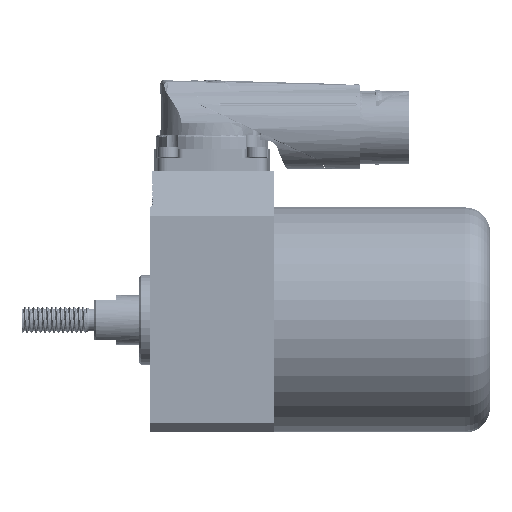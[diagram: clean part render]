
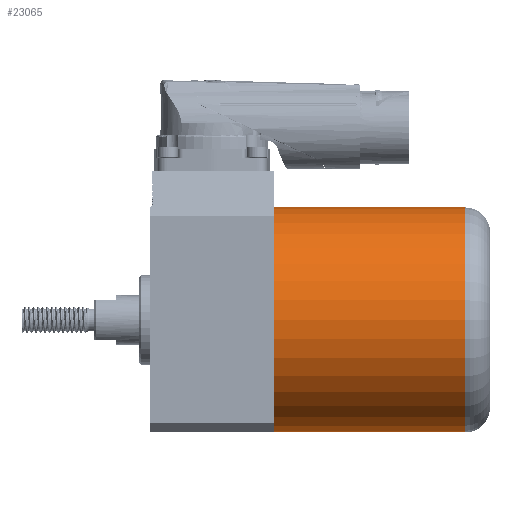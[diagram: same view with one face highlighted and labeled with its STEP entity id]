
A CAD part, front view. The second image highlights one B-rep face of the part: STEP entity #23065.
In plain terms, the highlighted cylindrical face has radius 25 mm (diameter 50 mm), a full revolution.
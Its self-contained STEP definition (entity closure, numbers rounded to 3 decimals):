
#2491=FACE_OUTER_BOUND('',#3953,.T.);
#3953=EDGE_LOOP('',(#20336,#20337,#20338,#20339,#20340,#20341));
#5734=CIRCLE('',#25067,25.);
#5736=CIRCLE('',#25070,25.);
#5737=CIRCLE('',#25071,25.);
#5738=CIRCLE('',#25072,25.);
#7249=LINE('',#60012,#8789);
#8789=VECTOR('',#30414,25.);
#11030=VERTEX_POINT('',#60003);
#11031=VERTEX_POINT('',#60007);
#11032=VERTEX_POINT('',#60008);
#11033=VERTEX_POINT('',#60010);
#14325=EDGE_CURVE('',#11030,#11030,#5734,.T.);
#14327=EDGE_CURVE('',#11031,#11032,#5736,.T.);
#14328=EDGE_CURVE('',#11033,#11031,#5737,.T.);
#14329=EDGE_CURVE('',#11033,#11030,#7249,.T.);
#14330=EDGE_CURVE('',#11032,#11033,#5738,.T.);
#20336=ORIENTED_EDGE('',*,*,#14327,.F.);
#20337=ORIENTED_EDGE('',*,*,#14328,.F.);
#20338=ORIENTED_EDGE('',*,*,#14329,.T.);
#20339=ORIENTED_EDGE('',*,*,#14325,.T.);
#20340=ORIENTED_EDGE('',*,*,#14329,.F.);
#20341=ORIENTED_EDGE('',*,*,#14330,.F.);
#21797=CYLINDRICAL_SURFACE('',#25069,25.);
#23065=ADVANCED_FACE('',(#2491),#21797,.T.);
#25067=AXIS2_PLACEMENT_3D('',#60004,#30404,#30405);
#25069=AXIS2_PLACEMENT_3D('',#60006,#30408,#30409);
#25070=AXIS2_PLACEMENT_3D('',#60009,#30410,#30411);
#25071=AXIS2_PLACEMENT_3D('',#60011,#30412,#30413);
#25072=AXIS2_PLACEMENT_3D('',#60013,#30415,#30416);
#30404=DIRECTION('center_axis',(-1.,0.,0.));
#30405=DIRECTION('ref_axis',(0.,0.,1.));
#30408=DIRECTION('center_axis',(-1.,0.,0.));
#30409=DIRECTION('ref_axis',(0.,0.,1.));
#30410=DIRECTION('center_axis',(-1.,0.,0.));
#30411=DIRECTION('ref_axis',(0.,0.,1.));
#30412=DIRECTION('center_axis',(-1.,0.,0.));
#30413=DIRECTION('ref_axis',(0.,0.,1.));
#30414=DIRECTION('',(1.,0.,0.));
#30415=DIRECTION('center_axis',(-1.,0.,0.));
#30416=DIRECTION('ref_axis',(0.,0.,1.));
#60003=CARTESIAN_POINT('',(70.,0.,-25.));
#60004=CARTESIAN_POINT('Origin',(70.,0.,0.));
#60006=CARTESIAN_POINT('Origin',(48.75,0.,0.));
#60007=CARTESIAN_POINT('',(27.5,-25.,0.));
#60008=CARTESIAN_POINT('',(27.5,25.,0.));
#60009=CARTESIAN_POINT('Origin',(27.5,0.,0.));
#60010=CARTESIAN_POINT('',(27.5,0.,-25.));
#60011=CARTESIAN_POINT('Origin',(27.5,0.,0.));
#60012=CARTESIAN_POINT('',(48.75,0.,-25.));
#60013=CARTESIAN_POINT('Origin',(27.5,0.,0.));
